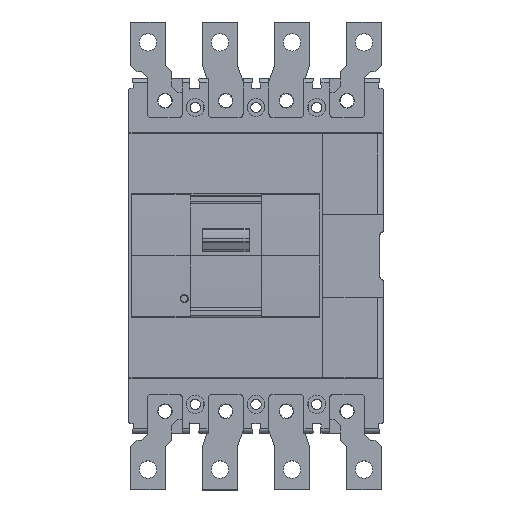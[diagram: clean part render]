
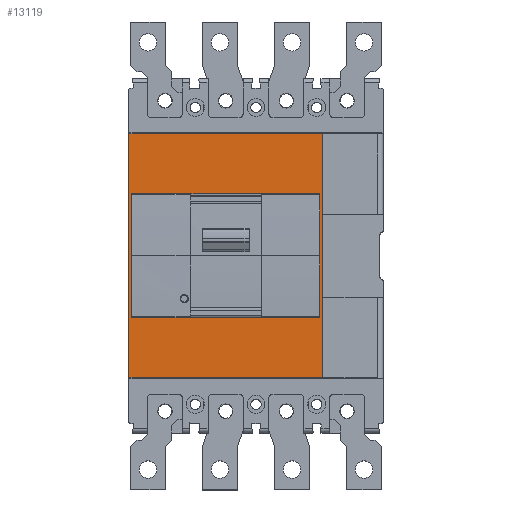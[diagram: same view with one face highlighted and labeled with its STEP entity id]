
A CAD part, top view. The second image highlights one B-rep face of the part: STEP entity #13119.
In plain terms, the highlighted planar face has unit normal (0, 0, 1).
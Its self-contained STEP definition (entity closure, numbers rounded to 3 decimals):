
#125 = VERTEX_POINT ( 'NONE', #11116 ) ;
#184 = VECTOR ( 'NONE', #5811, 1000. ) ;
#335 = VERTEX_POINT ( 'NONE', #4094 ) ;
#565 = DIRECTION ( 'NONE',  ( -1., 0., 0. ) ) ;
#732 = CARTESIAN_POINT ( 'NONE',  ( 70., 88.317, 103. ) ) ;
#937 = EDGE_LOOP ( 'NONE', ( #12485, #8462, #4819, #11888 ) ) ;
#1235 = CARTESIAN_POINT ( 'NONE',  ( -70., 88.317, 103. ) ) ;
#1654 = EDGE_CURVE ( 'NONE', #335, #7892, #12671, .T. ) ;
#1671 = EDGE_CURVE ( 'NONE', #125, #6508, #10666, .T. ) ;
#1952 = DIRECTION ( 'NONE',  ( 0., -1., 0. ) ) ;
#2052 = DIRECTION ( 'NONE',  ( -1., 0., 0. ) ) ;
#2731 = CARTESIAN_POINT ( 'NONE',  ( -68., -45., 103. ) ) ;
#3459 = DIRECTION ( 'NONE',  ( 0., 1., 0. ) ) ;
#3803 = VECTOR ( 'NONE', #2052, 1000. ) ;
#4094 = CARTESIAN_POINT ( 'NONE',  ( -68., 45., 103. ) ) ;
#4155 = LINE ( 'NONE', #8245, #13558 ) ;
#4352 = FACE_OUTER_BOUND ( 'NONE', #937, .T. ) ;
#4461 = CARTESIAN_POINT ( 'NONE',  ( 68., -45., 103. ) ) ;
#4710 = EDGE_CURVE ( 'NONE', #12844, #15746, #11522, .T. ) ;
#4819 = ORIENTED_EDGE ( 'NONE', *, *, #10422, .T. ) ;
#4855 = VECTOR ( 'NONE', #16033, 1000. ) ;
#5811 = DIRECTION ( 'NONE',  ( -1., 0., 0. ) ) ;
#6023 = ORIENTED_EDGE ( 'NONE', *, *, #9061, .F. ) ;
#6508 = VERTEX_POINT ( 'NONE', #4461 ) ;
#7801 = CARTESIAN_POINT ( 'NONE',  ( -70., 0., 103. ) ) ;
#7892 = VERTEX_POINT ( 'NONE', #2731 ) ;
#8245 = CARTESIAN_POINT ( 'NONE',  ( 70., 45., 103. ) ) ;
#8462 = ORIENTED_EDGE ( 'NONE', *, *, #16531, .F. ) ;
#8614 = CARTESIAN_POINT ( 'NONE',  ( 70., -45., 103. ) ) ;
#8642 = VECTOR ( 'NONE', #9295, 1000. ) ;
#8814 = LINE ( 'NONE', #10980, #9614 ) ;
#9061 = EDGE_CURVE ( 'NONE', #125, #335, #4155, .T. ) ;
#9295 = DIRECTION ( 'NONE',  ( 0., -1., 0. ) ) ;
#9614 = VECTOR ( 'NONE', #3459, 1000. ) ;
#9637 = DIRECTION ( 'NONE',  ( 0., 0., 1. ) ) ;
#9688 = CARTESIAN_POINT ( 'NONE',  ( 70., -88.317, 103. ) ) ;
#9819 = ORIENTED_EDGE ( 'NONE', *, *, #14405, .T. ) ;
#9903 = DIRECTION ( 'NONE',  ( -1., 0., 0. ) ) ;
#9920 = CARTESIAN_POINT ( 'NONE',  ( 70., 88.317, 103. ) ) ;
#10168 = VERTEX_POINT ( 'NONE', #9920 ) ;
#10422 = EDGE_CURVE ( 'NONE', #11092, #10168, #8814, .T. ) ;
#10484 = CARTESIAN_POINT ( 'NONE',  ( -68., 0., 103. ) ) ;
#10666 = LINE ( 'NONE', #14719, #4855 ) ;
#10980 = CARTESIAN_POINT ( 'NONE',  ( 70., 0., 103. ) ) ;
#11092 = VERTEX_POINT ( 'NONE', #14655 ) ;
#11116 = CARTESIAN_POINT ( 'NONE',  ( 68., 45., 103. ) ) ;
#11289 = AXIS2_PLACEMENT_3D ( 'NONE', #16210, #9637, #1952 ) ;
#11507 = EDGE_CURVE ( 'NONE', #10168, #15746, #13613, .T. ) ;
#11522 = LINE ( 'NONE', #7801, #13139 ) ;
#11613 = EDGE_LOOP ( 'NONE', ( #16161, #9819, #12826, #6023 ) ) ;
#11631 = DIRECTION ( 'NONE',  ( 0., 1., 0. ) ) ;
#11888 = ORIENTED_EDGE ( 'NONE', *, *, #11507, .T. ) ;
#12301 = PLANE ( 'NONE',  #11289 ) ;
#12374 = FACE_BOUND ( 'NONE', #11613, .T. ) ;
#12485 = ORIENTED_EDGE ( 'NONE', *, *, #4710, .F. ) ;
#12671 = LINE ( 'NONE', #10484, #8642 ) ;
#12826 = ORIENTED_EDGE ( 'NONE', *, *, #1654, .F. ) ;
#12844 = VERTEX_POINT ( 'NONE', #13746 ) ;
#13119 = ADVANCED_FACE ( 'NONE', ( #12374, #4352 ), #12301, .T. ) ;
#13139 = VECTOR ( 'NONE', #11631, 1000. ) ;
#13558 = VECTOR ( 'NONE', #565, 1000. ) ;
#13613 = LINE ( 'NONE', #732, #184 ) ;
#13746 = CARTESIAN_POINT ( 'NONE',  ( -70., -88.317, 103. ) ) ;
#14247 = LINE ( 'NONE', #9688, #3803 ) ;
#14405 = EDGE_CURVE ( 'NONE', #6508, #7892, #16394, .T. ) ;
#14655 = CARTESIAN_POINT ( 'NONE',  ( 70., -88.317, 103. ) ) ;
#14719 = CARTESIAN_POINT ( 'NONE',  ( 68., 0., 103. ) ) ;
#15175 = VECTOR ( 'NONE', #9903, 1000. ) ;
#15746 = VERTEX_POINT ( 'NONE', #1235 ) ;
#16033 = DIRECTION ( 'NONE',  ( 0., -1., 0. ) ) ;
#16161 = ORIENTED_EDGE ( 'NONE', *, *, #1671, .T. ) ;
#16210 = CARTESIAN_POINT ( 'NONE',  ( 70., 0., 103. ) ) ;
#16394 = LINE ( 'NONE', #8614, #15175 ) ;
#16531 = EDGE_CURVE ( 'NONE', #11092, #12844, #14247, .T. ) ;
